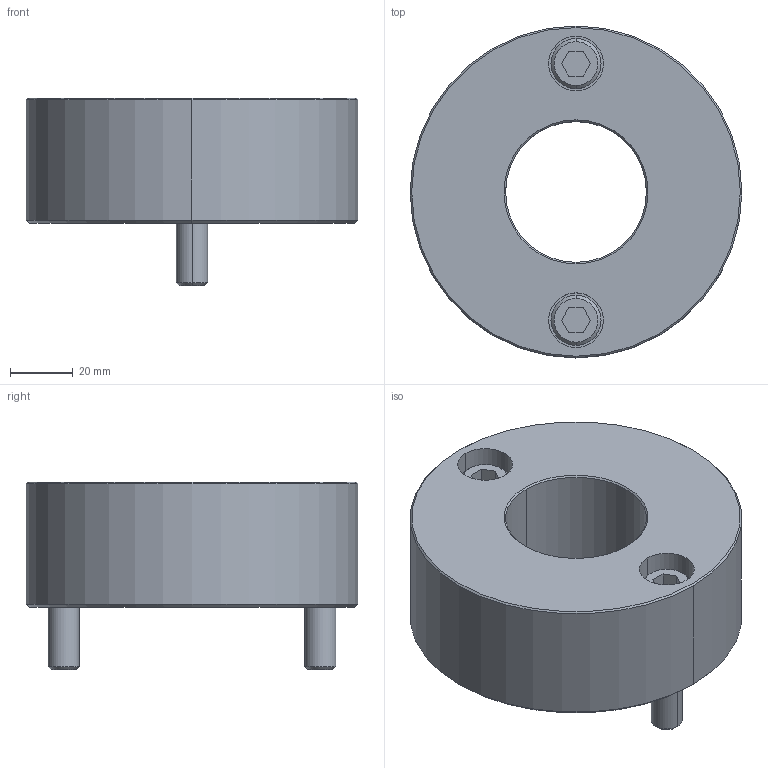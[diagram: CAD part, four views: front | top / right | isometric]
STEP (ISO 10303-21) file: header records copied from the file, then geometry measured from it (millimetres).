
FILE_DESCRIPTION((''),'2;1');
FILE_NAME('','2010-08-30T17:29:18+09:00',('misumi'),(''),'M/STEP i/f 1R2-14','CADmeister v5.1','');
FILE_SCHEMA(('AUTOMOTIVE_DESIGN'));
Length unit declared in the file: millimetre
Products named in the file (1): KEB40-40-N
Bounding box: 106 x 106 x 60 mm (x, y, z)
Volume: 287566.2 mm3; surface area: 40837.3 mm2
Topology: 3 solids, 3 shells, 60 faces, 128 edges, 80 vertices
Faces by surface type: plane 24, cylinder 20, cone 16
Entity records: 1742 total; most frequent: DIRECTION 306, CARTESIAN_POINT 269, ORIENTED_EDGE 256, EDGE_CURVE 128, AXIS2_PLACEMENT_3D 117, VERTEX_POINT 80, LINE 72, VECTOR 72
